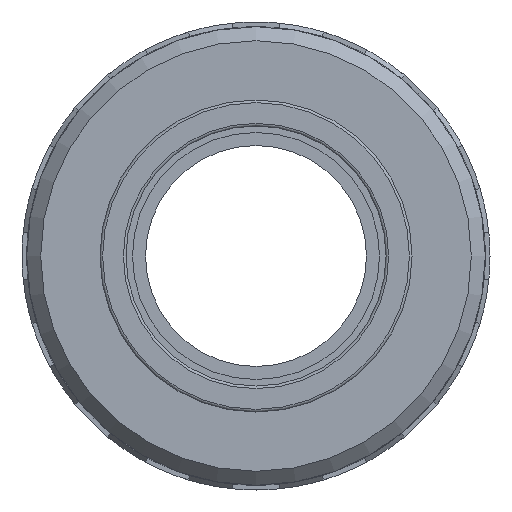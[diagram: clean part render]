
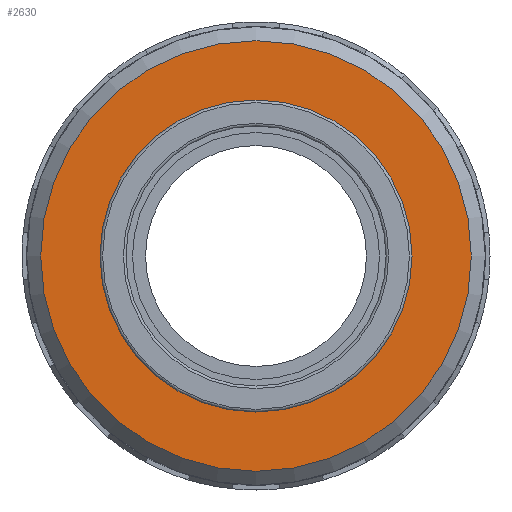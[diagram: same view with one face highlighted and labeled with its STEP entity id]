
A CAD part, left-side view. The second image highlights one B-rep face of the part: STEP entity #2630.
In plain terms, the highlighted planar face has unit normal (-1, 0, 0).
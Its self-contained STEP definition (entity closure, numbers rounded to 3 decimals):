
#66=FACE_BOUND('',#525,.T.);
#225=CIRCLE('',#2899,24.);
#228=CIRCLE('',#2906,33.12);
#368=FACE_OUTER_BOUND('',#524,.T.);
#524=EDGE_LOOP('',(#2400));
#525=EDGE_LOOP('',(#2401));
#1267=VERTEX_POINT('',#4471);
#1270=VERTEX_POINT('',#4483);
#1644=EDGE_CURVE('',#1267,#1267,#225,.T.);
#1649=EDGE_CURVE('',#1270,#1270,#228,.T.);
#2400=ORIENTED_EDGE('',*,*,#1649,.F.);
#2401=ORIENTED_EDGE('',*,*,#1644,.F.);
#2491=PLANE('',#2908);
#2630=ADVANCED_FACE('',(#368,#66),#2491,.T.);
#2899=AXIS2_PLACEMENT_3D('',#4472,#3680,#3681);
#2906=AXIS2_PLACEMENT_3D('',#4484,#3696,#3697);
#2908=AXIS2_PLACEMENT_3D('',#4486,#3700,#3701);
#3680=DIRECTION('center_axis',(-1.,0.,0.));
#3681=DIRECTION('ref_axis',(0.,0.,1.));
#3696=DIRECTION('center_axis',(1.,0.,0.));
#3697=DIRECTION('ref_axis',(0.,1.,0.));
#3700=DIRECTION('center_axis',(-1.,0.,0.));
#3701=DIRECTION('ref_axis',(0.,0.,1.));
#4471=CARTESIAN_POINT('',(-13.5,-24.,0.));
#4472=CARTESIAN_POINT('Origin',(-13.5,0.,0.));
#4483=CARTESIAN_POINT('',(-13.5,-33.12,0.));
#4484=CARTESIAN_POINT('Origin',(-13.5,0.,0.));
#4486=CARTESIAN_POINT('Origin',(-13.5,-24.,0.));
